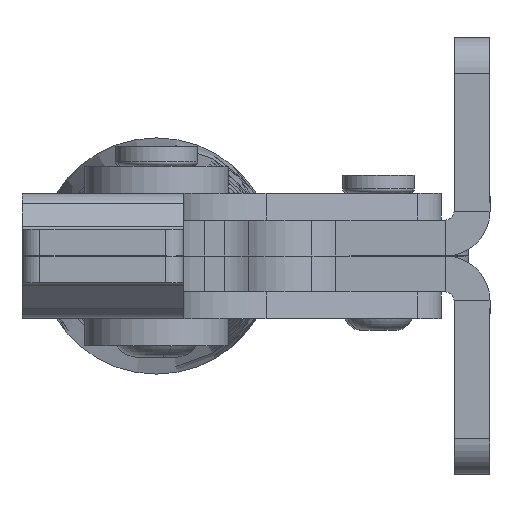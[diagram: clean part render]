
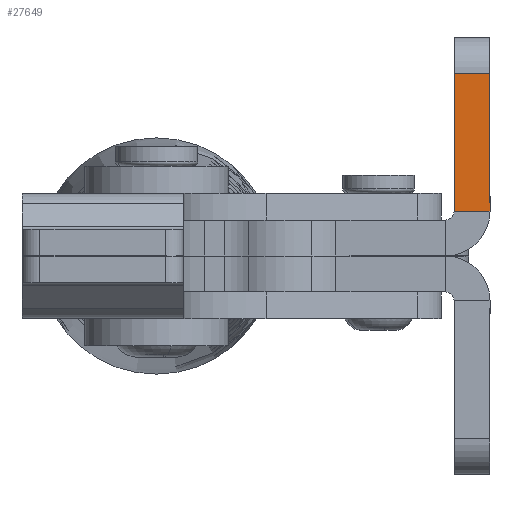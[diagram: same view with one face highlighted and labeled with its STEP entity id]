
A CAD part, left-side view. The second image highlights one B-rep face of the part: STEP entity #27649.
In plain terms, the highlighted planar face has unit normal (-1, 0, 0).
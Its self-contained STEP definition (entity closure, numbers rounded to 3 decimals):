
#1862 = EDGE_CURVE ( 'NONE', #9494, #14713, #29591, .T. ) ;
#3269 = DIRECTION ( 'NONE',  ( 0., -1., 0. ) ) ;
#3471 = LINE ( 'NONE', #24427, #14566 ) ;
#3737 = EDGE_CURVE ( 'NONE', #14713, #27377, #23738, .T. ) ;
#4192 = VERTEX_POINT ( 'NONE', #25373 ) ;
#5924 = CARTESIAN_POINT ( 'NONE',  ( 0., -21., 4. ) ) ;
#7440 = CARTESIAN_POINT ( 'NONE',  ( 0., -5.611, 4. ) ) ;
#8850 = CARTESIAN_POINT ( 'NONE',  ( 0., 0., 4. ) ) ;
#9494 = VERTEX_POINT ( 'NONE', #12466 ) ;
#10029 = CARTESIAN_POINT ( 'NONE',  ( 0., 11.276, 0. ) ) ;
#12466 = CARTESIAN_POINT ( 'NONE',  ( 0., -5.611, 0. ) ) ;
#14566 = VECTOR ( 'NONE', #24228, 1000. ) ;
#14713 = VERTEX_POINT ( 'NONE', #7440 ) ;
#14922 = CARTESIAN_POINT ( 'NONE',  ( 0., -5.611, 4. ) ) ;
#16099 = LINE ( 'NONE', #10029, #29571 ) ;
#18115 = DIRECTION ( 'NONE',  ( -1., 0., 0. ) ) ;
#19973 = VECTOR ( 'NONE', #32285, 1000. ) ;
#20632 = EDGE_CURVE ( 'NONE', #9494, #4192, #16099, .T. ) ;
#22507 = ORIENTED_EDGE ( 'NONE', *, *, #1862, .F. ) ;
#22922 = EDGE_CURVE ( 'NONE', #4192, #27377, #3471, .T. ) ;
#23060 = EDGE_LOOP ( 'NONE', ( #22507, #29728, #33633, #27120 ) ) ;
#23738 = LINE ( 'NONE', #8850, #19973 ) ;
#24228 = DIRECTION ( 'NONE',  ( 0., 0., 1. ) ) ;
#24427 = CARTESIAN_POINT ( 'NONE',  ( 0., -21., 4. ) ) ;
#24980 = PLANE ( 'NONE',  #29797 ) ;
#25373 = CARTESIAN_POINT ( 'NONE',  ( 0., -21., 0. ) ) ;
#27120 = ORIENTED_EDGE ( 'NONE', *, *, #3737, .F. ) ;
#27377 = VERTEX_POINT ( 'NONE', #5924 ) ;
#27649 = ADVANCED_FACE ( 'NONE', ( #27880 ), #24980, .T. ) ;
#27880 = FACE_OUTER_BOUND ( 'NONE', #23060, .T. ) ;
#29571 = VECTOR ( 'NONE', #30752, 1000. ) ;
#29591 = LINE ( 'NONE', #14922, #33639 ) ;
#29728 = ORIENTED_EDGE ( 'NONE', *, *, #20632, .T. ) ;
#29797 = AXIS2_PLACEMENT_3D ( 'NONE', #36783, #18115, #3269 ) ;
#30752 = DIRECTION ( 'NONE',  ( 0., -1., 0. ) ) ;
#32285 = DIRECTION ( 'NONE',  ( 0., -1., 0. ) ) ;
#33633 = ORIENTED_EDGE ( 'NONE', *, *, #22922, .T. ) ;
#33639 = VECTOR ( 'NONE', #35592, 1000. ) ;
#35592 = DIRECTION ( 'NONE',  ( 0., 0., 1. ) ) ;
#36783 = CARTESIAN_POINT ( 'NONE',  ( 0., 0., 4. ) ) ;
